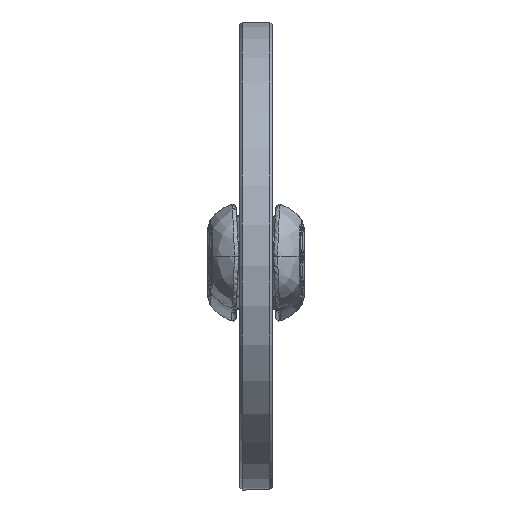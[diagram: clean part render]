
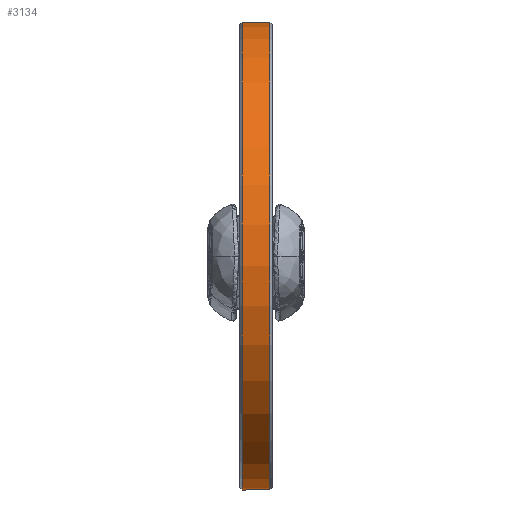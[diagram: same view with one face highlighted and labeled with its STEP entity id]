
A CAD part, top view. The second image highlights one B-rep face of the part: STEP entity #3134.
In plain terms, the highlighted cylindrical face has radius 435 mm (diameter 870 mm), a full revolution.
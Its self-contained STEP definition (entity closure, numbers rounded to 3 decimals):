
#667=CYLINDRICAL_SURFACE($,#3484,435.);
#776=FACE_BOUND($,#1284,.T.);
#982=FACE_OUTER_BOUND($,#1283,.T.);
#1283=EDGE_LOOP($,(#2878));
#1284=EDGE_LOOP($,(#2879));
#1475=CIRCLE($,#3483,435.);
#1476=CIRCLE($,#3485,435.);
#1744=VERTEX_POINT($,#13946);
#1745=VERTEX_POINT($,#13949);
#2127=EDGE_CURVE($,#1744,#1744,#1475,.T.);
#2128=EDGE_CURVE($,#1745,#1745,#1476,.T.);
#2878=ORIENTED_EDGE($,*,*,#2128,.F.);
#2879=ORIENTED_EDGE($,*,*,#2127,.F.);
#3134=ADVANCED_FACE($,(#982,#776),#667,.T.);
#3483=AXIS2_PLACEMENT_3D($,#13947,#4224,#4225);
#3484=AXIS2_PLACEMENT_3D($,#13948,#4226,#4227);
#3485=AXIS2_PLACEMENT_3D($,#13950,#4228,#4229);
#4224=DIRECTION('center_axis',(0.,0.,-1.));
#4225=DIRECTION('ref_axis',(-1.,0.,0.));
#4226=DIRECTION('center_axis',(0.,0.,1.));
#4227=DIRECTION('ref_axis',(-1.,0.,0.));
#4228=DIRECTION('center_axis',(0.,0.,1.));
#4229=DIRECTION('ref_axis',(-1.,0.,0.));
#13946=CARTESIAN_POINT('',(435.,0.,-26.));
#13947=CARTESIAN_POINT('Origin',(0.,0.,-26.));
#13948=CARTESIAN_POINT('Origin',(0.,0.,0.));
#13949=CARTESIAN_POINT('',(435.,0.,26.));
#13950=CARTESIAN_POINT('Origin',(0.,0.,26.));
